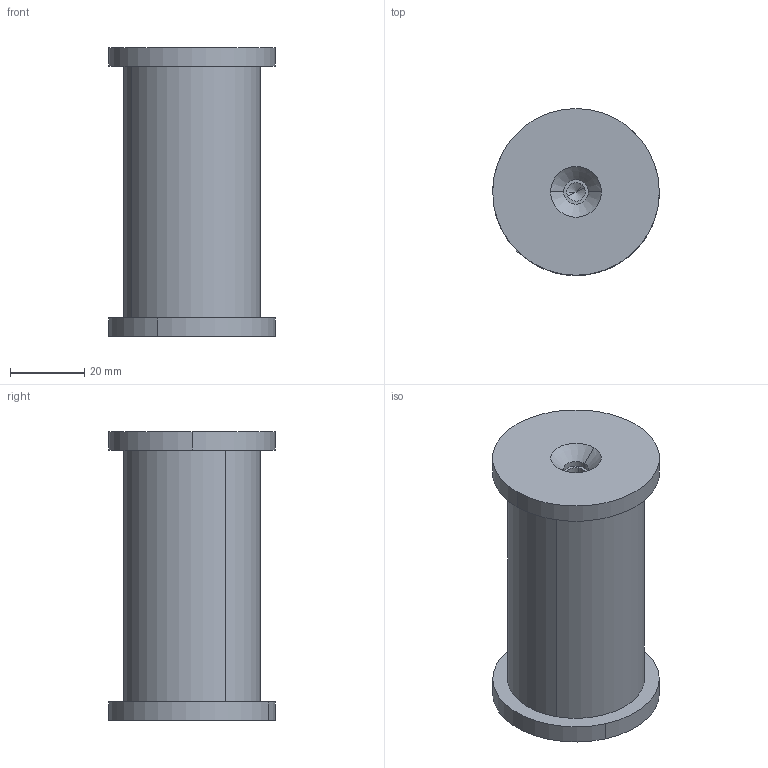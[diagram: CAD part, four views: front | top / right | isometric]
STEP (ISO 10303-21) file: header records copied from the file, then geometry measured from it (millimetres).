
FILE_DESCRIPTION (( 'STEP AP203' ), '1' );
FILE_NAME ('Bolzen Scheibe A M36.STEP', '2018-02-20T07:57:56', ( 'install' ), ( 'Hewlett-Packard Company' ), 'SwSTEP 2.0', 'SolidWorks 2017', '' );
FILE_SCHEMA (( 'CONFIG_CONTROL_DESIGN' ));
Length unit declared in the file: millimetre
Products named in the file (3): Scheibe_M36; Bolzen ScheibeVarA_generisch_M36; Bolzen Scheibe A M36
Assembly tree (3 placements, depth 2):
  Bolzen Scheibe A M36
    Scheibe_M36  x2
    Bolzen ScheibeVarA_generisch_M36
Bounding box: 45 x 45 x 78 mm (x, y, z)
Volume: 87630.3 mm3; surface area: 18390.9 mm2
Topology: 3 solids, 3 shells, 28 faces, 58 edges, 34 vertices
Faces by surface type: cylinder 14, cone 8, plane 6
Entity records: 853 total; most frequent: DIRECTION 112, CARTESIAN_POINT 88, ORIENTED_EDGE 76, AXIS2_PLACEMENT_3D 48, EDGE_CURVE 38, PERSON_AND_ORGANIZATION 27, VERTEX_POINT 24, EDGE_LOOP 24
